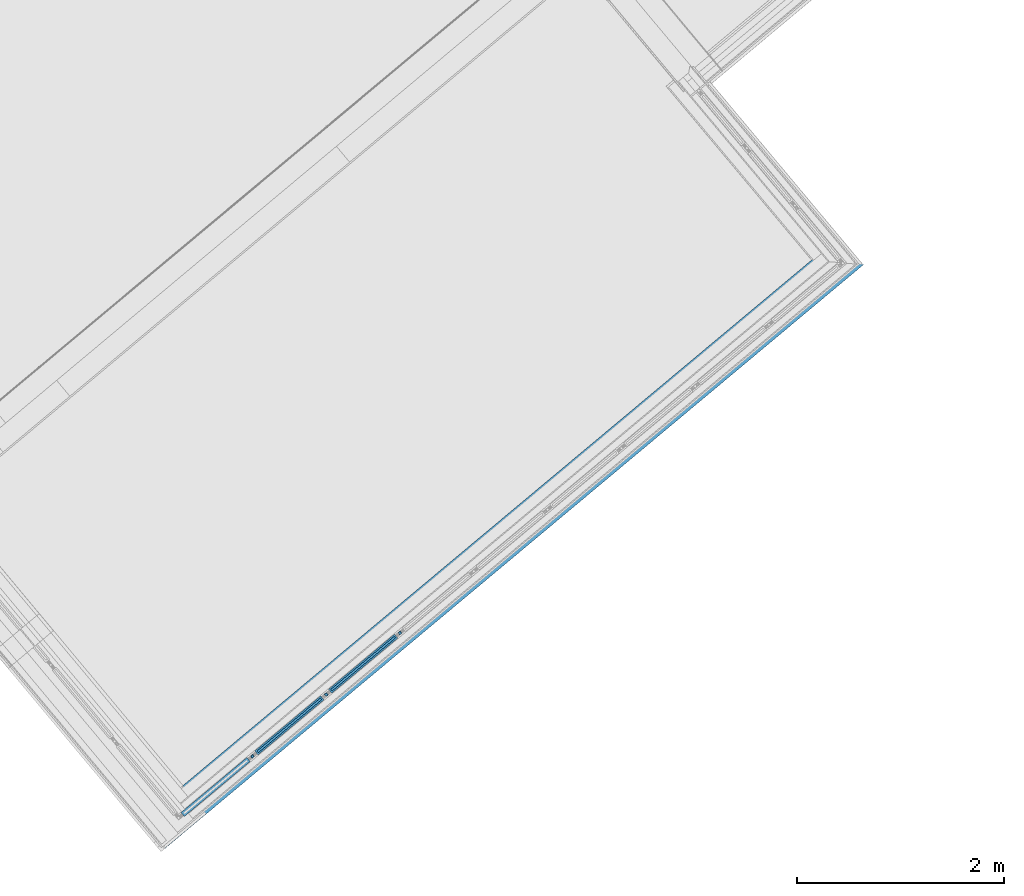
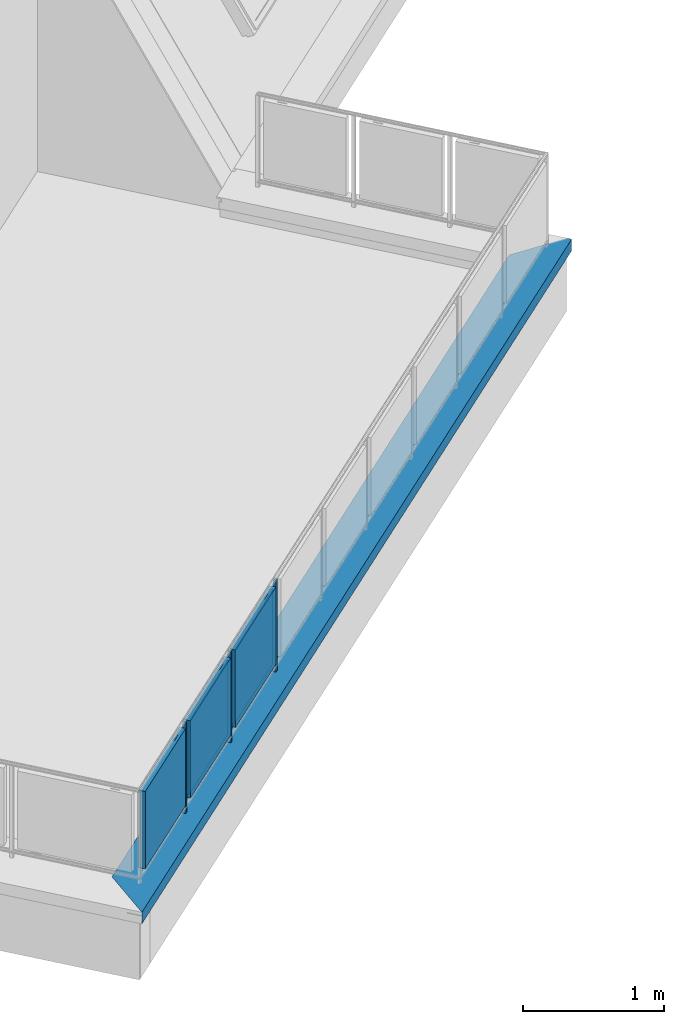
# One storey, part 18 of 61: 9 building element parts, 2 elements without a shape of their own.
"""IFC4 building model written with IfcOpenShell, lengths in metres."""

from ifc_helpers import new_model, entity, si_unit, converted_unit, derived_unit, direction, frame, origin_with_axes, place, context, subcontext, project, spatial, polygons, material, type_object, element, aggregate, save


model = new_model("IFC4")

# Units and contexts
model_context = context("Model", 3, precision=1e-05, world=origin_with_axes(), true_north=direction((0.0, 1.0)))
body_context = subcontext(model_context, "Body", "Model", "MODEL_VIEW")
ifc_project = project(units=[si_unit("LENGTHUNIT", "METRE"), si_unit("AREAUNIT", "SQUARE_METRE"), si_unit("VOLUMEUNIT", "CUBIC_METRE"), converted_unit("PLANEANGLEUNIT", "DEGREE", entity("IfcPlaneAngleMeasure", 0.0174532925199), si_unit("PLANEANGLEUNIT", "RADIAN"), dimensions=[0, 0, 0, 0, 0, 0, 0]), converted_unit("TIMEUNIT", "Year", entity("IfcTimeMeasure", 31556926.0), si_unit("TIMEUNIT", "SECOND"), dimensions=[0, 0, 1, 0, 0, 0, 0]), si_unit("MASSUNIT", "GRAM", prefix="KILO"), si_unit("THERMODYNAMICTEMPERATUREUNIT", "DEGREE_CELSIUS"), si_unit("LUMINOUSINTENSITYUNIT", "LUMEN"), si_unit("ENERGYUNIT", "JOULE", prefix="MEGA"), derived_unit("THERMALCONDUCTANCEUNIT", [(si_unit("POWERUNIT", "WATT"), 1), (si_unit("LENGTHUNIT", "METRE"), -1), (si_unit("THERMODYNAMICTEMPERATUREUNIT", "KELVIN"), -1)]), derived_unit("SPECIFICHEATCAPACITYUNIT", [(si_unit("ENERGYUNIT", "JOULE"), 1), (si_unit("MASSUNIT", "GRAM", prefix="KILO"), -1), (si_unit("THERMODYNAMICTEMPERATUREUNIT", "KELVIN"), -1)]), derived_unit("MASSDENSITYUNIT", [(si_unit("MASSUNIT", "GRAM", prefix="KILO"), 1), (si_unit("VOLUMEUNIT", "CUBIC_METRE"), -1)])], contexts=[model_context])

# Site, building, storey
site_placement = place(None, frame((-0.00153261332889, -0.00661245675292, 0.0), z_axis=(0.0, 0.0, 1.0), x_axis=(1.0, 0.0, 0.0)))
site = spatial("IfcSite", under=ifc_project, at=site_placement, Name="Gelände", CompositionType="ELEMENT")
building_placement = place(site_placement, origin_with_axes())
building = spatial("IfcBuilding", under=site, at=building_placement, Name="Gebäude", CompositionType="ELEMENT")
storey_placement = place(building_placement, frame((0.0, 0.0, 5.7), z_axis=(0.0, 0.0, 1.0), x_axis=(1.0, 0.0, 0.0)))
storey = spatial("IfcBuildingStorey", under=building, at=storey_placement, Name="DG1", CompositionType="ELEMENT", Elevation=5.7)

# Wall, building element part
wall_type = type_object("IfcWallType", Name="Bauteil - Attika Balkon 356 x 610", PredefinedType="NOTDEFINED")
wall_placement = place(storey_placement, frame((0.456856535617, 6.75344693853, -0.2), z_axis=(0.0, 0.0, 1.0), x_axis=(0.767288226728, 0.641302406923, 0.0)))
wall = element("IfcWall", 1, at=wall_placement, inside=storey, type_object=wall_type, Name="Wand-003", PredefinedType="NOTDEFINED")
ifc_material_1 = material(Name="Stahl")
building_element_part_1_placement = place(wall_placement, origin_with_axes())
building_element_part_1 = element("IfcBuildingElementPart", 2, at=building_element_part_1_placement, material=ifc_material_1, Name="Stahl", PredefinedType="NOTDEFINED", context=body_context, shape_type="Tessellation", body=[
    polygons([(-0.241610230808, -0.241359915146, 0.608602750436), (-0.241610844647, -0.242707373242, 0.608602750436), (-0.241610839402, -0.242707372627, 0.608652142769), (-0.241610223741, -0.24135992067, 0.60865214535), (-0.24026339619, -0.242707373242, 0.608602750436), (-0.240262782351, -0.241359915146, 0.608602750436), (-0.241610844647, -0.242707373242, 0.581921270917), (-0.241610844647, -0.242707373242, 0.575979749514), (-0.240261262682, -0.242707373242, 0.575979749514), (-0.240261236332, -0.242707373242, 0.575576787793), (-0.24026112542, -0.242707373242, 0.573880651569), (-0.24026073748, -0.242707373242, 0.567947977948), (-0.240260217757, -0.242707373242, 0.559999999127), (-0.240257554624, -0.242707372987, 0.519273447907), (-0.240257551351, -0.242707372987, 0.519224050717), (-0.240257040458, -0.242707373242, 0.511410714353), (-0.240207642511, -0.242707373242, 0.511410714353), (-0.238293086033, -0.242707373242, 0.511410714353), (-0.238342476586, -0.242707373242, 0.511361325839), (-0.239646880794, -0.242707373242, 0.510056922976), (8.62143202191, -0.242707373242, 0.510056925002), (8.62143202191, -0.242707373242, 0.610055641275), (0.0, -0.242707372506, 0.610055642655), (0.0, -0.242707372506, 0.610006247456), (-0.241610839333, -0.242707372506, 0.610006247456), (-0.204205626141, -0.242707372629, 0.608652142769), (-0.240263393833, -0.242707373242, 0.608570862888), (-0.240262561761, -0.242707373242, 0.595846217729), (-0.240262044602, -0.242707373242, 0.587937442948), (-0.240261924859, -0.242707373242, 0.586106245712), (-0.240261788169, -0.242707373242, 0.584015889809), (-0.240261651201, -0.242707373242, 0.581921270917), (-0.204205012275, -0.24135985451, 0.608652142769), (-0.241610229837, -0.241357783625, 0.575979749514), (-0.241610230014, -0.241358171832, 0.581921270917), (-0.240261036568, -0.241358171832, 0.581921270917), (-0.240261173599, -0.24135830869, 0.584015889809), (-0.240261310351, -0.24135844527, 0.586106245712), (-0.240261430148, -0.241358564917, 0.587937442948), (-0.240261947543, -0.24135908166, 0.595846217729), (-0.240262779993, -0.241359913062, 0.608570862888), (8.62008378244, -0.241359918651, 0.608652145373), (8.62143123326, -0.24135992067, 0.60865214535), (8.62143122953, -0.241353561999, 0.511410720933), (8.62007741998, -0.241353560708, 0.511410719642), (-0.238292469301, -0.241353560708, 0.511410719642), (-0.240207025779, -0.241353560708, 0.511410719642), (-0.240256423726, -0.241353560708, 0.511410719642), (-0.240256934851, -0.241354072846, 0.519224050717), (-0.240256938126, -0.241354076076, 0.519273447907), (-0.240259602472, -0.241356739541, 0.559999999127), (-0.240260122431, -0.241357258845, 0.567947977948), (-0.240260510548, -0.241357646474, 0.573880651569), (-0.24026062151, -0.241357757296, 0.575576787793), (-0.240260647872, -0.241357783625, 0.575979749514), (-0.238291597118, -0.239439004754, 0.511410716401), (-0.238341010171, -0.239488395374, 0.511361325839), (-0.240603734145, -0.241750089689, 0.509099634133), (8.6204741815, -0.241750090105, 0.509099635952), (8.62143090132, -0.240792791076, 0.510056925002), (8.62143011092, -0.239439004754, 0.511410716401), (8.62140934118, -0.203952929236, 0.60865214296), (-0.204187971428, -0.203952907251, 0.608652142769), (-0.241610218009, -0.241343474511, 0.610006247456), (0.0, -0.241343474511, 0.610006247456), (8.62006188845, -0.203952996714, 0.608652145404), (8.61797714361, -0.201708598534, 0.608570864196), (8.30233847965, 0.113600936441, 0.597151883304), (0.113635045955, 0.113600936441, 0.597151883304), (-0.201941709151, -0.201708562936, 0.608570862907), (-0.202822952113, -0.202589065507, 0.608602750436), (-0.202840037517, -0.240093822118, 0.608602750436), (-0.201958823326, -0.23927647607, 0.608570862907), (8.61799913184, -0.23927649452, 0.608570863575), (8.6200762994, -0.239439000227, 0.511410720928), (-0.240253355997, -0.233490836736, 0.519273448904), (-0.240253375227, -0.233540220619, 0.519224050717), (-0.232390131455, -0.233540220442, 0.519224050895), (-0.231480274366, -0.23454447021, 0.518219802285), (8.6122100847, -0.233490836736, 0.519273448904), (-0.231479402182, -0.232629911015, 0.518219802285), (-0.231524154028, -0.232580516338, 0.518269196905), (8.61321380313, -0.232580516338, 0.518269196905), (8.26626970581, 0.112247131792, 0.5958462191), (8.26626891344, 0.113600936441, 0.5958462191), (0.149702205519, 0.113600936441, 0.595846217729), (8.26626890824, 0.113600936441, 0.586106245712), (8.26626890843, 0.113600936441, 0.584015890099), (8.26626890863, 0.113600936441, 0.581921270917), (8.26626890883, 0.113600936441, 0.579822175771), (8.26626890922, 0.113600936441, 0.575576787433), (8.26626891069, 0.113600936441, 0.560000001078), (8.26626891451, 0.113600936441, 0.519273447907), (8.26626891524, 0.113600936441, 0.511410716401), (8.26626891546, 0.113600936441, 0.509099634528), (8.26626891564, 0.113600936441, 0.506731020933), (8.26626891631, 0.113600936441, 0.499999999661), (8.26626891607, 0.113600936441, 0.498915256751), (8.26818347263, 0.113600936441, 0.498915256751), (8.26682966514, 0.113600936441, 0.497561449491), (0.332103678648, 0.113600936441, 0.497561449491), (0.332103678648, 0.113600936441, 0.498822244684), (0.332103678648, 0.113600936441, 0.498915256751), (0.332103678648, 0.113600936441, 0.499999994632), (0.332103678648, 0.113600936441, 0.506731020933), (0.332103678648, 0.113600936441, 0.509050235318), (0.332103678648, 0.113600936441, 0.509099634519), (0.332103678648, 0.113600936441, 0.51136132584), (0.332103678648, 0.113600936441, 0.511410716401), (0.332103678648, 0.113600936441, 0.519224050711), (0.332103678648, 0.113600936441, 0.519273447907), (0.332103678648, 0.113600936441, 0.560000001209), (0.332103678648, 0.113600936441, 0.567947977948), (0.332103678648, 0.113600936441, 0.573880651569), (0.332103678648, 0.113600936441, 0.575576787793), (0.332103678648, 0.113600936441, 0.575979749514), (0.332103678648, 0.113600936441, 0.57982217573), (0.332103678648, 0.113600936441, 0.581921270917), (0.332103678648, 0.113600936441, 0.584015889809), (0.332103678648, 0.113600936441, 0.586106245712), (0.332103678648, 0.113600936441, 0.587937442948), (0.332103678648, 0.113600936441, 0.589243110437), (0.149701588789, 0.112247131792, 0.595846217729), (-0.240253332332, -0.233446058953, 0.519224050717), (-0.23239008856, -0.233446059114, 0.519224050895), (8.26626970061, 0.112247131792, 0.586106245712), (8.26626970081, 0.112247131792, 0.584015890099), (8.266269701, 0.112247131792, 0.581921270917), (8.2662697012, 0.112247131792, 0.579822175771), (8.2662697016, 0.112247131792, 0.575576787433), (8.26626970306, 0.112247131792, 0.560000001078), (8.26626970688, 0.112247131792, 0.519273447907), (8.26626970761, 0.112247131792, 0.511410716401), (8.26626970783, 0.112247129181, 0.509099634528), (8.26626970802, 0.112247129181, 0.506731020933), (8.26626970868, 0.112247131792, 0.499999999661), (8.26626970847, 0.112247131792, 0.498915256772), (8.26818426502, 0.112247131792, 0.498915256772), (8.26818538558, 0.110332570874, 0.498915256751), (8.26587294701, 0.112643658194, 0.496604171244), (0.332103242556, 0.112643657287, 0.496604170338), (0.332102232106, 0.110425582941, 0.498822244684), (0.332102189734, 0.110332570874, 0.498915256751), (0.332103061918, 0.112247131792, 0.498915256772), (0.332103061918, 0.112247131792, 0.499999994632), (0.332103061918, 0.112247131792, 0.506731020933), (0.332103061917, 0.112247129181, 0.509050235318), (0.332103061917, 0.112247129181, 0.509099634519), (0.332103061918, 0.112247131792, 0.51136132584), (0.332103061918, 0.112247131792, 0.511410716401), (0.332103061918, 0.112247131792, 0.519224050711), (0.332103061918, 0.112247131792, 0.519273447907), (0.332103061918, 0.112247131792, 0.560000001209), (0.332103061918, 0.112247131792, 0.567947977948), (0.332103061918, 0.112247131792, 0.573880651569), (0.332103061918, 0.112247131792, 0.575576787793), (0.332103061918, 0.112247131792, 0.575979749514), (0.332103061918, 0.112247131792, 0.57982217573), (0.332103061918, 0.112247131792, 0.581921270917), (0.332103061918, 0.112247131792, 0.584015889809), (0.332103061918, 0.112247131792, 0.586106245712), (0.332103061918, 0.112247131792, 0.587937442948), (0.332103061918, 0.112247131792, 0.589243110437), (0.330748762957, 0.11116240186, 0.499999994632), (0.300050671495, 0.11116240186, 0.499999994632), (0.300047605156, 0.104431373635, 0.506731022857), (8.27409003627, 0.104431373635, 0.506731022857), (8.27509375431, 0.10534169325, 0.505820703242), (8.26926964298, 0.11116239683, 0.499999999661), (0.330749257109, 0.112247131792, 0.498915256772), (0.300049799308, 0.109247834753, 0.499999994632), (0.33074789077, 0.109247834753, 0.499999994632), (0.33074838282, 0.110332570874, 0.498915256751), (8.26927076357, 0.109247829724, 0.499999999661), (8.27509487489, 0.103427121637, 0.505820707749), (0.300047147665, 0.103427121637, 0.505820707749)], [[[1, 2, 3, 4]], [[5, 2, 1, 6]], [[7, 8, 9, 10, 11, 12, 13, 14, 15, 16, 17, 18, 19, 20, 21, 22, 23, 24, 25, 26, 3, 2, 5, 27, 28, 29, 30, 31, 32]], [[4, 3, 26, 33]], [[34, 35, 36, 37, 38, 39, 40, 41, 6, 1, 4, 33, 42, 43, 44, 45, 46, 47, 48, 49, 50, 51, 52, 53, 54, 55]], [[27, 5, 6, 41]], [[8, 7, 35, 34]], [[9, 8, 34, 55]], [[10, 9, 55, 54]], [[11, 10, 54, 53]], [[12, 11, 53, 52]], [[13, 12, 52, 51]], [[14, 13, 51, 50]], [[15, 14, 50, 49]], [[48, 16, 15, 49]], [[16, 48, 47, 17]], [[17, 47, 46, 18]], [[56, 57, 19, 18, 46]], [[57, 58, 20, 19]], [[20, 58, 59, 21]], [[21, 60, 61, 44, 43, 62, 22]], [[63, 64, 65, 23, 22, 62, 66, 67, 68, 69, 70, 71]], [[65, 24, 23]], [[64, 25, 24, 65]], [[25, 64, 63, 33, 26]], [[28, 27, 41, 40]], [[29, 28, 40, 39]], [[30, 29, 39, 38]], [[31, 30, 38, 37]], [[32, 31, 37, 36]], [[35, 7, 32, 36]], [[33, 72, 73, 74, 42]], [[66, 62, 43, 42]], [[75, 45, 44, 61]], [[76, 77, 78, 79, 46, 45, 80]], [[58, 57, 56, 81, 82, 83, 75, 61, 60, 59]], [[56, 46, 79, 81]], [[21, 59, 60]], [[67, 66, 42, 74]], [[67, 74, 84, 85, 68]], [[86, 69, 68, 85, 87, 88, 89, 90, 91, 92, 93, 94, 95, 96, 97, 98, 99, 100, 101, 102, 103, 104, 105, 106, 107, 108, 109, 110, 111, 112, 113, 114, 115, 116, 117, 118, 119, 120, 121, 122]], [[123, 73, 70, 69, 86]], [[71, 70, 73, 72]], [[63, 71, 72, 33]], [[73, 123, 84, 74]], [[45, 75, 83, 80]], [[76, 124, 77]], [[77, 124, 125, 78]], [[78, 125, 82, 81, 79]], [[124, 76, 80, 83, 82, 125]], [[84, 126, 87, 85]], [[126, 127, 88, 87]], [[127, 128, 89, 88]], [[90, 89, 128, 129]], [[130, 91, 90, 129]], [[91, 130, 131, 92]], [[131, 132, 93, 92]], [[132, 133, 94, 93]], [[133, 134, 95, 94]], [[134, 135, 96, 95]], [[135, 136, 97, 96]], [[136, 137, 98, 97]], [[98, 137, 138, 99]], [[139, 140, 100, 99, 138]], [[141, 101, 100, 140]], [[142, 102, 101, 141]], [[102, 142, 143, 144, 103]], [[144, 145, 104, 103]], [[145, 146, 105, 104]], [[146, 147, 106, 105]], [[147, 148, 107, 106]], [[148, 149, 108, 107]], [[149, 150, 109, 108]], [[150, 151, 110, 109]], [[151, 152, 111, 110]], [[152, 153, 112, 111]], [[153, 154, 113, 112]], [[154, 155, 114, 113]], [[155, 156, 115, 114]], [[156, 157, 116, 115]], [[157, 158, 117, 116]], [[158, 159, 118, 117]], [[159, 160, 119, 118]], [[119, 160, 161, 120]], [[120, 161, 162, 121]], [[121, 162, 163, 122]], [[123, 86, 122, 163]], [[145, 144, 137, 136, 135, 134, 133, 132, 131, 130, 129, 128, 127, 126, 84, 123, 163, 162, 161, 160, 159, 158, 157, 156, 155, 154, 153, 152, 151, 150, 149, 148, 147, 146]], [[164, 165, 166, 167, 168, 169, 138, 137, 144, 170]], [[171, 172, 173, 143, 142, 141, 140, 139, 174, 175, 176]], [[174, 139, 138, 169]], [[170, 144, 143, 173]], [[171, 165, 164, 172]], [[165, 171, 176, 166]], [[166, 176, 175, 167]], [[168, 167, 175]], [[175, 174, 169, 168]], [[164, 170, 173, 172]]], closed=True),
])
aggregate(wall, [building_element_part_1])

# Space
space_placement = place(storey_placement, frame((-1.65459986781, 9.80045444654, 0.22), z_axis=(0.0, 0.0, 1.0), x_axis=(0.640908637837, -0.767617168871, 0.0)))
space = spatial("IfcSpace", under=storey, at=space_placement, CompositionType="ELEMENT", PredefinedType="NOTDEFINED")

# Railing, building element parts
railing_type = type_object("IfcRailingType", Name="Geländerart", PredefinedType="NOTDEFINED")
railing_placement = place(space_placement, frame((-0.0155551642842, 0.517171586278, 0.16), z_axis=(0.0, 0.0, 1.0), x_axis=(0.640908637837, 0.767617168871, 0.0)))
railing = element("IfcRailing", 3, at=railing_placement, inside=space, type_object=railing_type, Name="Geländer - 001", PredefinedType="NOTDEFINED")
ifc_material_2 = material(Name="Aluminium")
building_element_part_2_placement = place(railing_placement, origin_with_axes())
building_element_part_2 = element("IfcBuildingElementPart", 4, at=building_element_part_2_placement, material=ifc_material_2, Name="Aluminium", PredefinedType="NOTDEFINED", context=body_context, shape_type="Tessellation", body=[
    polygons([(1.97875903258, -3.30492303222, 0.12), (2.03247560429, -3.26003951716, 0.12), (2.03247560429, -3.26003951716, 0.095), (1.97875903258, -3.30492303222, 0.095), (1.98196499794, -3.3087599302, 0.12), (2.03568156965, -3.26387641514, 0.12), (2.03568156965, -3.26387641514, 0.095), (1.98196499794, -3.3087599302, 0.095)], [[[1, 2, 3, 4]], [[5, 6, 2, 1]], [[2, 6, 7, 3]], [[4, 3, 7, 8]], [[1, 4, 8, 5]], [[8, 7, 6, 5]]], closed=True),
    polygons([(2.46294781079, -2.90035338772, 0.79), (2.40923123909, -2.94523690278, 0.79), (2.40923123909, -2.94523690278, 0.795), (2.46294781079, -2.90035338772, 0.795), (2.46615377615, -2.9041902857, 0.79), (2.41243720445, -2.94907380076, 0.79), (2.41243720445, -2.94907380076, 0.795), (2.46615377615, -2.9041902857, 0.795)], [[[1, 2, 3, 4]], [[5, 6, 2, 1]], [[2, 6, 7, 3]], [[4, 3, 7, 8]], [[1, 4, 8, 5]], [[8, 7, 6, 5]]], closed=True),
    polygons([(1.91965388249, -3.39014527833, 0.12), (1.88759422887, -3.35177629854, 0.12), (2.52525892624, -2.81896803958, 0.12), (2.55731857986, -2.85733701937, 0.12), (1.9350014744, -3.37732141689, 0.14), (1.92538357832, -3.36581072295, 0.14), (1.92154668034, -3.36901668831, 0.135), (1.90872281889, -3.3536690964, 0.135), (1.91255971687, -3.35046313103, 0.14), (1.90294182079, -3.3389524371, 0.14), (2.50991133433, -2.83179190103, 0.14), (2.50991133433, -2.83179190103, 0.77), (1.90294182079, -3.3389524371, 0.77), (1.90294182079, -3.3389524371, 0.14), (1.88759422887, -3.35177629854, 0.12), (1.88759422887, -3.35177629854, 0.79), (2.52525892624, -2.81896803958, 0.79), (2.55731857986, -2.85733701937, 0.79), (1.91965388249, -3.39014527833, 0.79), (1.91965388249, -3.39014527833, 0.12), (1.9350014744, -3.37732141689, 0.14), (1.9350014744, -3.37732141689, 0.77), (2.54197098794, -2.87016088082, 0.77), (2.54197098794, -2.87016088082, 0.14), (2.53235309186, -2.85865018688, 0.14), (2.53235309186, -2.85865018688, 0.77), (1.92538357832, -3.36581072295, 0.77), (1.92538357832, -3.36581072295, 0.14), (1.92154668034, -3.36901668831, 0.135), (1.92154668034, -3.36901668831, 0.775), (2.53618998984, -2.85544422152, 0.775), (2.53618998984, -2.85544422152, 0.135), (2.52336612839, -2.84009662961, 0.135), (2.52336612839, -2.84009662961, 0.775), (1.90872281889, -3.3536690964, 0.775), (1.90872281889, -3.3536690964, 0.135), (1.91255971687, -3.35046313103, 0.14), (1.91255971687, -3.35046313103, 0.77), (2.51952923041, -2.84330259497, 0.77), (2.51952923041, -2.84330259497, 0.14)], [[[1, 2, 3, 4]], [[1, 5, 6, 7, 8, 9, 10, 2]], [[2, 10, 11, 12, 13, 14, 15, 16, 17, 3]], [[4, 3, 17, 18]], [[5, 1, 4, 18, 19, 20, 21, 22, 23, 24]], [[6, 5, 24, 25]], [[7, 6, 25, 26, 27, 28, 29, 30, 31, 32]], [[8, 7, 32, 33]], [[9, 8, 33, 34, 35, 36, 37, 38, 39, 40]], [[10, 9, 40, 11]], [[11, 40, 39, 12]], [[12, 39, 38, 13]], [[13, 38, 37, 14]], [[20, 15, 14, 37, 36, 29, 28, 21]], [[19, 16, 15, 20]], [[18, 17, 16, 19]], [[27, 22, 21, 28]], [[26, 23, 22, 27]], [[25, 24, 23, 26]], [[35, 30, 29, 36]], [[34, 31, 30, 35]], [[33, 32, 31, 34]]], closed=True),
])
building_element_part_3_placement = place(railing_placement, origin_with_axes())
building_element_part_3 = element("IfcBuildingElementPart", 5, at=building_element_part_3_placement, material=ifc_material_2, Name="Aluminium", PredefinedType="NOTDEFINED", context=body_context, shape_type="Tessellation", body=[
    polygons([(2.59726489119, -2.80767020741, -0.3), (2.58123506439, -2.78848571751, -0.3), (2.58123506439, -2.78848571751, 0.82), (2.59726489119, -2.80767020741, 0.82), (2.5780804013, -2.82370003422, -0.3), (2.56205057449, -2.80451554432, -0.3), (2.56205057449, -2.80451554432, 0.82), (2.5780804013, -2.82370003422, 0.82)], [[[1, 2, 3, 4]], [[1, 5, 6, 2]], [[2, 6, 7, 3]], [[4, 3, 7, 8]], [[5, 1, 4, 8]], [[6, 5, 8, 7]]], closed=True),
])
ifc_material_3 = material(Name="Profilit")
building_element_part_4_placement = place(railing_placement, origin_with_axes())
building_element_part_4 = element("IfcBuildingElementPart", 6, at=building_element_part_4_placement, material=ifc_material_3, Name="Profilit", PredefinedType="NOTDEFINED", context=body_context, shape_type="Tessellation", body=[
    polygons([(3.23776878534, -2.24316906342, 0.135), (2.62312547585, -2.75674153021, 0.135), (2.62312547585, -2.75674153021, 0.775), (3.23776878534, -2.24316906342, 0.775), (2.63594933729, -2.77208912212, 0.135), (3.25059264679, -2.25851665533, 0.135), (2.63594933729, -2.77208912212, 0.775), (3.25059264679, -2.25851665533, 0.775)], [[[1, 2, 3, 4]], [[5, 2, 1, 6]], [[7, 3, 2, 5]], [[4, 3, 7, 8]], [[1, 4, 8, 6]], [[7, 5, 6, 8]]], closed=True),
])
building_element_part_5_placement = place(railing_placement, origin_with_axes())
building_element_part_5 = element("IfcBuildingElementPart", 7, at=building_element_part_5_placement, material=ifc_material_2, Name="Aluminium", PredefinedType="NOTDEFINED", context=body_context, shape_type="Tessellation", body=[
    polygons([(2.69316168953, -2.70799546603, 0.12), (2.74687826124, -2.66311195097, 0.12), (2.74687826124, -2.66311195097, 0.095), (2.69316168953, -2.70799546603, 0.095), (2.69636765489, -2.71183236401, 0.12), (2.7500842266, -2.66694884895, 0.12), (2.7500842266, -2.66694884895, 0.095), (2.69636765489, -2.71183236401, 0.095)], [[[1, 2, 3, 4]], [[5, 6, 2, 1]], [[2, 6, 7, 3]], [[4, 3, 7, 8]], [[1, 4, 8, 5]], [[8, 7, 6, 5]]], closed=True),
    polygons([(3.17735046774, -2.30342582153, 0.79), (3.12363389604, -2.34830933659, 0.79), (3.12363389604, -2.34830933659, 0.795), (3.17735046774, -2.30342582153, 0.795), (3.1805564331, -2.30726271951, 0.79), (3.1268398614, -2.35214623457, 0.79), (3.1268398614, -2.35214623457, 0.795), (3.1805564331, -2.30726271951, 0.795)], [[[1, 2, 3, 4]], [[5, 6, 2, 1]], [[2, 6, 7, 3]], [[4, 3, 7, 8]], [[1, 4, 8, 5]], [[8, 7, 6, 5]]], closed=True),
    polygons([(2.63405653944, -2.79321771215, 0.12), (2.60199688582, -2.75484873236, 0.12), (3.2396615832, -2.2220404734, 0.12), (3.27172123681, -2.26040945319, 0.12), (2.64940413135, -2.7803938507, 0.14), (2.63978623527, -2.76888315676, 0.14), (2.63594933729, -2.77208912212, 0.135), (2.62312547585, -2.75674153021, 0.135), (2.62696237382, -2.75353556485, 0.14), (2.61734447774, -2.74202487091, 0.14), (3.22431399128, -2.23486433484, 0.14), (3.22431399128, -2.23486433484, 0.77), (2.61734447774, -2.74202487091, 0.77), (2.61734447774, -2.74202487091, 0.14), (2.60199688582, -2.75484873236, 0.12), (2.60199688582, -2.75484873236, 0.79), (3.2396615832, -2.2220404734, 0.79), (3.27172123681, -2.26040945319, 0.79), (2.63405653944, -2.79321771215, 0.79), (2.63405653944, -2.79321771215, 0.12), (2.64940413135, -2.7803938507, 0.14), (2.64940413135, -2.7803938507, 0.77), (3.25637364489, -2.27323331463, 0.77), (3.25637364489, -2.27323331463, 0.14), (3.24675574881, -2.2617226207, 0.14), (3.24675574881, -2.2617226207, 0.77), (2.63978623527, -2.76888315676, 0.77), (2.63978623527, -2.76888315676, 0.14), (2.63594933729, -2.77208912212, 0.135), (2.63594933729, -2.77208912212, 0.775), (3.25059264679, -2.25851665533, 0.775), (3.25059264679, -2.25851665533, 0.135), (3.23776878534, -2.24316906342, 0.135), (3.23776878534, -2.24316906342, 0.775), (2.62312547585, -2.75674153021, 0.775), (2.62312547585, -2.75674153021, 0.135), (2.62696237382, -2.75353556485, 0.14), (2.62696237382, -2.75353556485, 0.77), (3.23393188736, -2.24637502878, 0.77), (3.23393188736, -2.24637502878, 0.14)], [[[1, 2, 3, 4]], [[1, 5, 6, 7, 8, 9, 10, 2]], [[2, 10, 11, 12, 13, 14, 15, 16, 17, 3]], [[4, 3, 17, 18]], [[5, 1, 4, 18, 19, 20, 21, 22, 23, 24]], [[6, 5, 24, 25]], [[7, 6, 25, 26, 27, 28, 29, 30, 31, 32]], [[8, 7, 32, 33]], [[9, 8, 33, 34, 35, 36, 37, 38, 39, 40]], [[10, 9, 40, 11]], [[11, 40, 39, 12]], [[12, 39, 38, 13]], [[13, 38, 37, 14]], [[20, 15, 14, 37, 36, 29, 28, 21]], [[19, 16, 15, 20]], [[18, 17, 16, 19]], [[27, 22, 21, 28]], [[26, 23, 22, 27]], [[25, 24, 23, 26]], [[35, 30, 29, 36]], [[34, 31, 30, 35]], [[33, 32, 31, 34]]], closed=True),
])
building_element_part_6_placement = place(railing_placement, origin_with_axes())
building_element_part_6 = element("IfcBuildingElementPart", 8, at=building_element_part_6_placement, material=ifc_material_2, Name="Aluminium", PredefinedType="NOTDEFINED", context=body_context, shape_type="Tessellation", body=[
    polygons([(3.31166754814, -2.21074264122, -0.3), (3.29563772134, -2.19155815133, -0.3), (3.29563772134, -2.19155815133, 0.82), (3.31166754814, -2.21074264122, 0.82), (3.29248305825, -2.22677246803, -0.3), (3.27645323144, -2.20758797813, -0.3), (3.27645323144, -2.20758797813, 0.82), (3.29248305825, -2.22677246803, 0.82)], [[[1, 2, 3, 4]], [[1, 5, 6, 2]], [[2, 6, 7, 3]], [[4, 3, 7, 8]], [[5, 1, 4, 8]], [[6, 5, 8, 7]]], closed=True),
])
building_element_part_7_placement = place(railing_placement, origin_with_axes())
building_element_part_7 = element("IfcBuildingElementPart", 9, at=building_element_part_7_placement, material=ifc_material_3, Name="Profilit", PredefinedType="NOTDEFINED", context=body_context, shape_type="Tessellation", body=[
    polygons([(3.95217144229, -1.64624149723, 0.135), (3.3375281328, -2.15981396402, 0.135), (3.3375281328, -2.15981396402, 0.775), (3.95217144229, -1.64624149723, 0.775), (3.35035199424, -2.17516155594, 0.135), (3.96499530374, -1.66158908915, 0.135), (3.35035199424, -2.17516155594, 0.775), (3.96499530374, -1.66158908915, 0.775)], [[[1, 2, 3, 4]], [[5, 2, 1, 6]], [[7, 3, 2, 5]], [[4, 3, 7, 8]], [[1, 4, 8, 6]], [[7, 5, 6, 8]]], closed=True),
])
building_element_part_8_placement = place(railing_placement, origin_with_axes())
building_element_part_8 = element("IfcBuildingElementPart", 10, at=building_element_part_8_placement, material=ifc_material_2, Name="Aluminium", PredefinedType="NOTDEFINED", context=body_context, shape_type="Tessellation", body=[
    polygons([(3.40756434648, -2.11106789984, 0.12), (3.46128091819, -2.06618438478, 0.12), (3.46128091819, -2.06618438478, 0.095), (3.40756434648, -2.11106789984, 0.095), (3.41077031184, -2.11490479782, 0.12), (3.46448688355, -2.07002128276, 0.12), (3.46448688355, -2.07002128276, 0.095), (3.41077031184, -2.11490479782, 0.095)], [[[1, 2, 3, 4]], [[5, 6, 2, 1]], [[2, 6, 7, 3]], [[4, 3, 7, 8]], [[1, 4, 8, 5]], [[8, 7, 6, 5]]], closed=True),
    polygons([(3.89175312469, -1.70649825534, 0.79), (3.83803655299, -1.7513817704, 0.79), (3.83803655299, -1.7513817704, 0.795), (3.89175312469, -1.70649825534, 0.795), (3.89495909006, -1.71033515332, 0.79), (3.84124251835, -1.75521866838, 0.79), (3.84124251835, -1.75521866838, 0.795), (3.89495909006, -1.71033515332, 0.795)], [[[1, 2, 3, 4]], [[5, 6, 2, 1]], [[2, 6, 7, 3]], [[4, 3, 7, 8]], [[1, 4, 8, 5]], [[8, 7, 6, 5]]], closed=True),
    polygons([(3.34845919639, -2.19629014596, 0.12), (3.31639954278, -2.15792116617, 0.12), (3.95406424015, -1.62511290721, 0.12), (3.98612389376, -1.663481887, 0.12), (3.36380678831, -2.18346628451, 0.14), (3.35418889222, -2.17195559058, 0.14), (3.35035199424, -2.17516155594, 0.135), (3.3375281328, -2.15981396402, 0.135), (3.34136503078, -2.15660799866, 0.14), (3.33174713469, -2.14509730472, 0.14), (3.93871664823, -1.63793676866, 0.14), (3.93871664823, -1.63793676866, 0.77), (3.33174713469, -2.14509730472, 0.77), (3.33174713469, -2.14509730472, 0.14), (3.31639954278, -2.15792116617, 0.12), (3.31639954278, -2.15792116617, 0.79), (3.95406424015, -1.62511290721, 0.79), (3.98612389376, -1.663481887, 0.79), (3.34845919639, -2.19629014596, 0.79), (3.34845919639, -2.19629014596, 0.12), (3.36380678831, -2.18346628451, 0.14), (3.36380678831, -2.18346628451, 0.77), (3.97077630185, -1.67630574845, 0.77), (3.97077630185, -1.67630574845, 0.14), (3.96115840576, -1.66479505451, 0.14), (3.96115840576, -1.66479505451, 0.77), (3.35418889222, -2.17195559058, 0.77), (3.35418889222, -2.17195559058, 0.14), (3.35035199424, -2.17516155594, 0.135), (3.35035199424, -2.17516155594, 0.775), (3.96499530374, -1.66158908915, 0.775), (3.96499530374, -1.66158908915, 0.135), (3.95217144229, -1.64624149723, 0.135), (3.95217144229, -1.64624149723, 0.775), (3.3375281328, -2.15981396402, 0.775), (3.3375281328, -2.15981396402, 0.135), (3.34136503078, -2.15660799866, 0.14), (3.34136503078, -2.15660799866, 0.77), (3.94833454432, -1.64944746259, 0.77), (3.94833454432, -1.64944746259, 0.14)], [[[1, 2, 3, 4]], [[1, 5, 6, 7, 8, 9, 10, 2]], [[2, 10, 11, 12, 13, 14, 15, 16, 17, 3]], [[4, 3, 17, 18]], [[5, 1, 4, 18, 19, 20, 21, 22, 23, 24]], [[6, 5, 24, 25]], [[7, 6, 25, 26, 27, 28, 29, 30, 31, 32]], [[8, 7, 32, 33]], [[9, 8, 33, 34, 35, 36, 37, 38, 39, 40]], [[10, 9, 40, 11]], [[11, 40, 39, 12]], [[12, 39, 38, 13]], [[13, 38, 37, 14]], [[20, 15, 14, 37, 36, 29, 28, 21]], [[19, 16, 15, 20]], [[18, 17, 16, 19]], [[27, 22, 21, 28]], [[26, 23, 22, 27]], [[25, 24, 23, 26]], [[35, 30, 29, 36]], [[34, 31, 30, 35]], [[33, 32, 31, 34]]], closed=True),
])
building_element_part_9_placement = place(railing_placement, origin_with_axes())
building_element_part_9 = element("IfcBuildingElementPart", 11, at=building_element_part_9_placement, material=ifc_material_2, Name="Aluminium", PredefinedType="NOTDEFINED", context=body_context, shape_type="Tessellation", body=[
    polygons([(4.0260702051, -1.61381507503, -0.3), (4.01004037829, -1.59463058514, -0.3), (4.01004037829, -1.59463058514, 0.82), (4.0260702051, -1.61381507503, 0.82), (4.0068857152, -1.62984490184, -0.3), (3.99085588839, -1.61066041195, -0.3), (3.99085588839, -1.61066041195, 0.82), (4.0068857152, -1.62984490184, 0.82)], [[[1, 2, 3, 4]], [[1, 5, 6, 2]], [[2, 6, 7, 3]], [[4, 3, 7, 8]], [[5, 1, 4, 8]], [[6, 5, 8, 7]]], closed=True),
])
aggregate(railing, [building_element_part_2, building_element_part_3, building_element_part_4, building_element_part_5, building_element_part_6, building_element_part_7, building_element_part_8, building_element_part_9])

save(model, "model.ifc")
